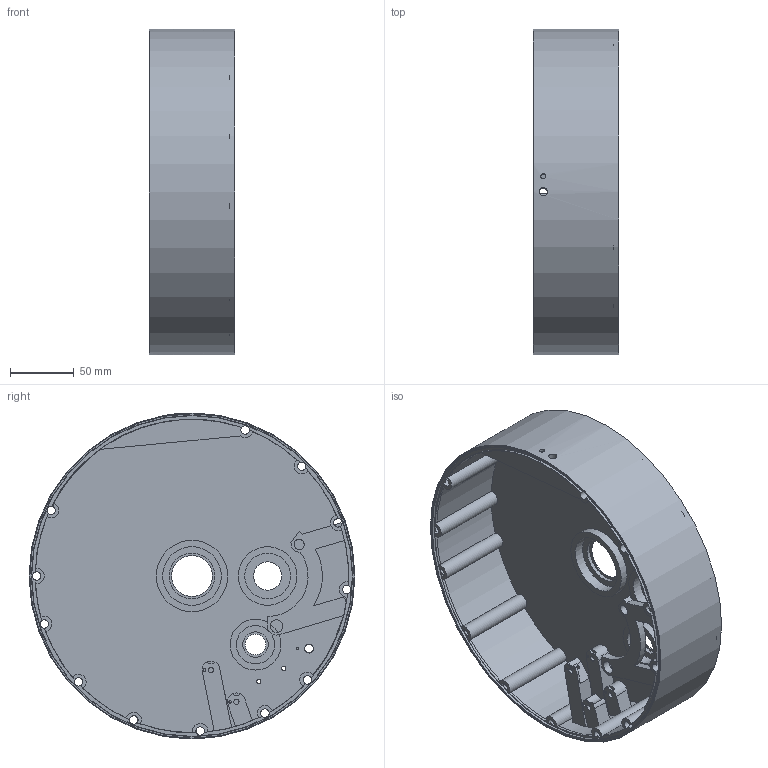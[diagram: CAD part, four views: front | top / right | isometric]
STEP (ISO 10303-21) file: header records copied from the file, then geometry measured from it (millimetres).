
FILE_DESCRIPTION(('Open CASCADE Model'),'2;1');
FILE_NAME('right_housing_R12_two_local_B3_mount_holes', '2026-09-28T18:24:07',('Author'),('Open CASCADE'), 'Open CASCADE STEP processor 7.9','build123d','Unknown');
FILE_SCHEMA(('AUTOMOTIVE_DESIGN { 1 0 10303 214 1 1 1 1 }'));
Length unit declared in the file: millimetre
Products named in the file (1): right_housing_R12_two_local_B3_mount_holes
Bounding box: 67.5 x 256 x 256 mm (x, y, z)
Volume: 555938.5 mm3; surface area: 250091.1 mm2
Topology: 1 solids, 1 shells, 209 faces, 543 edges, 362 vertices
Faces by surface type: cylinder 117, plane 92
Full cylindrical faces by diameter (mm): 2 x1, 2.02 x4, 3.4 x2, 4 x1, 4.1 x4, 6.2 x2, 6.4 x2, 6.6 x12, 7 x1, 8.01 x1, 10 x1, 10.01 x1, 10.4 x12, 16.2 x1, 20 x1, 22.2 x1, 30 x1, 32.2 x1, 36 x2, 40 x1, 46 x2, 56 x1, 252 x1, 252.6 x1, 254.8 x1, 256 x1
Entity records: 15114 total; most frequent: CARTESIAN_POINT 4110, DIRECTION 2093, ORIENTED_EDGE 1086, PCURVE 1086, DEFINITIONAL_REPRESENTATION 1086, LINE 833, VECTOR 833, CIRCLE 548
